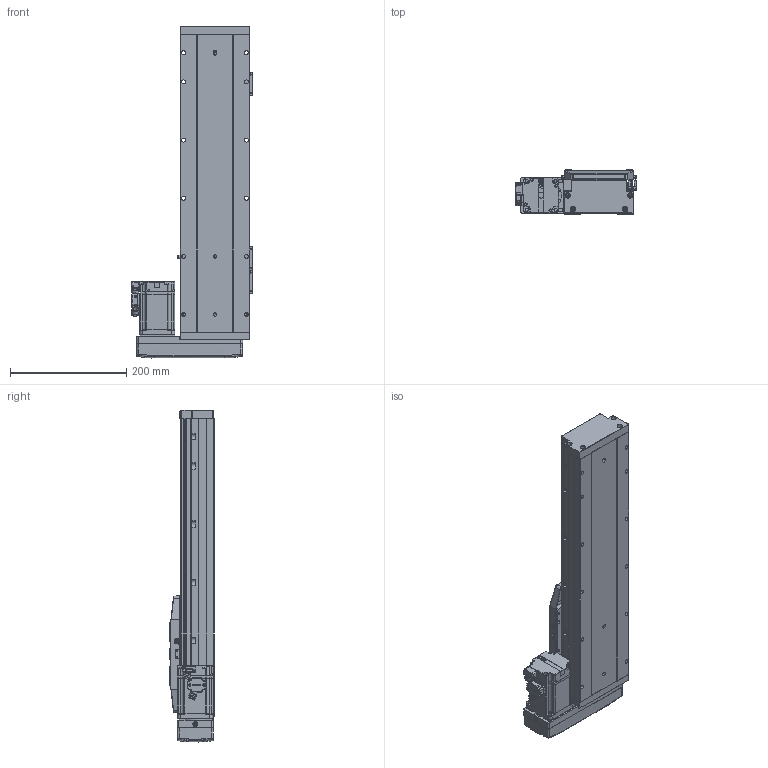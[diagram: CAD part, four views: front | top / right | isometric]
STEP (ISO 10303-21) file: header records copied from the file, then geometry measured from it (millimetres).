
FILE_DESCRIPTION (( 'STEP AP203' ), '1' );
FILE_NAME ('6.STEP', '2021-03-04T00:23:55', ( '' ), ( '' ), 'SwSTEP 2.0', 'SolidWorks 2016', '' );
FILE_SCHEMA (( 'CONFIG_CONTROL_DESIGN' ));
Length unit declared in the file: millimetre
Products named in the file (11): CTH12-BL-01; CTH12-BL-菁釱; FS-33-T40; CTH12-BL-05; CTH12-BL-04; MS1H1-40B30CB-A331Z-S_ASM_1; CTH12-BL-07; PM-Y45; CTH12-BL-02; CTH12-BL-HZ; 6
Assembly tree (15 placements, depth 2):
  6
    CTH12-BL-菁釱
    CTH12-BL-01
    CTH12-BL-04
    CTH12-BL-05  x2
    CTH12-BL-07  x3
    CTH12-BL-HZ
    PM-Y45  x3
    CTH12-BL-02
    MS1H1-40B30CB-A331Z-S_ASM_1
    FS-33-T40
Bounding box: 208.1 x 76 x 570.5 mm (x, y, z)
Volume: 3627104.5 mm3; surface area: 510279 mm2
Topology: 25 solids, 51 shells, 3572 faces, 9599 edges, 6198 vertices
Faces by surface type: plane 1969, cylinder 997, bspline 406, cone 200
Entity records: 121504 total; most frequent: CARTESIAN_POINT 38038, ORIENTED_EDGE 17776, DIRECTION 16054, EDGE_CURVE 8904, VERTEX_POINT 5798, LINE 5730, VECTOR 5730, AXIS2_PLACEMENT_3D 5162
